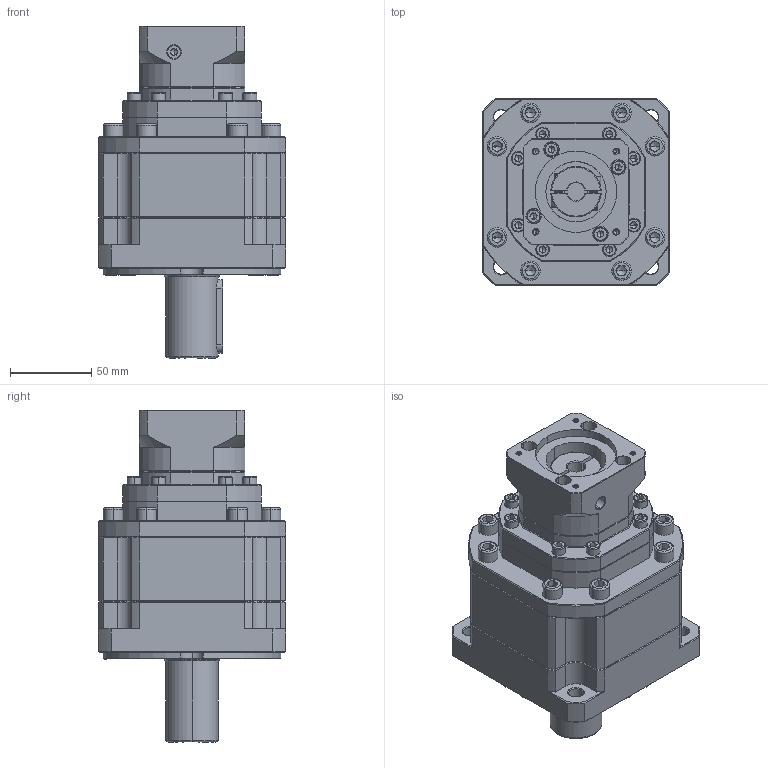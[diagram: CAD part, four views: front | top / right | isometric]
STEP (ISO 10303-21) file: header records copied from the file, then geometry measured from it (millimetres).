
FILE_DESCRIPTION (( 'STEP AP214' ), '1' );
FILE_NAME ('ZB115A-D32-L3-P2-11-50-70-M4.step', '2023-08-26T10:32:13', ( '' ), ( '' ), 'SwSTEP 2.0', 'SolidWorks 2016', '' );
FILE_SCHEMA (( 'AUTOMOTIVE_DESIGN' ));
Length unit declared in the file: millimetre
Products named in the file (1): ZB115A-D32-L3-P2-11-50-70-M4
Bounding box: 115 x 115 x 204 mm (x, y, z)
Volume: 1310999.2 mm3; surface area: 123215.6 mm2
Topology: 7 solids, 7 shells, 2548 faces, 6713 edges, 4279 vertices
Faces by surface type: plane 1306, bspline 443, cylinder 434, cone 343, torus 22
Entity records: 130380 total; most frequent: CARTESIAN_POINT 42940, ORIENTED_EDGE 13302, DIRECTION 10734, EDGE_CURVE 6651, VERTEX_POINT 4279, LINE 4256, VECTOR 4256, AXIS2_PLACEMENT_3D 3239
